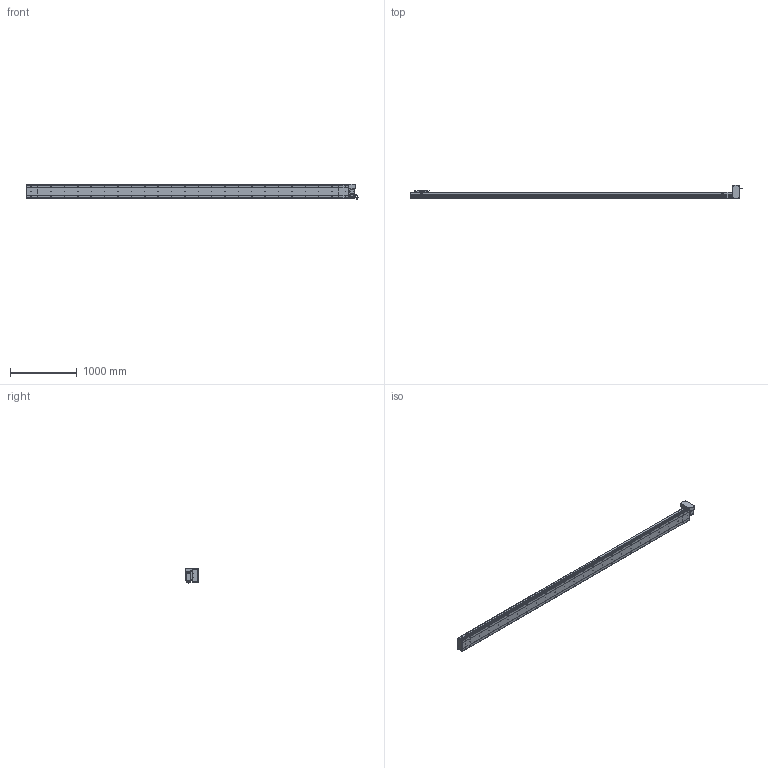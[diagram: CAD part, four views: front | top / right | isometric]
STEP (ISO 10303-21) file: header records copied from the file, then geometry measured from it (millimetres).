
FILE_DESCRIPTION (( 'STEP AP214' ), '1' );
FILE_NAME ('D20 CBH LT S4500.STEP', '2010-06-30T11:40:42', ( 'Conseil Régional Haute-Normandie' ), ( 'Conseil Régional Haute-Normandie' ), 'SwSTEP 2.0', 'SolidWorks 2010', '' );
FILE_SCHEMA (( 'AUTOMOTIVE_DESIGN' ));
Length unit declared in the file: millimetre
Products named in the file (31): Couvercle_Default; Corp Tail D20+100_Default; Conecteur_Default; Conecteur2_Default; codeur 90BLDC125-640; Cache Support Moteur LT_Default; Glissiere_Default; Chariot D20_Default; corps 90BLDC125A-640; Plaque de Bout Tail D20_Default; Tail D20+100_Default; Couvercle S4500_Default; Plaque De Serrage D20_Default; avant 90BLDC125A-640; Support Chariot D20_Default; Corp S4500_Default; Corp D20 S4500_Default; vis M5 L47_Default; vis M5 L30_Default; ecrou_Default; vis M5 L15_Default; Support moteur LT_Default; Rondelle Cache D20 LT_Default; Corp Tail D20 LT_Default; Head LT_Default; D20 CBH LT S4500; Plaque de Bout Head D20 LT_Default; Plaque De Serrage D20 LT_Default; Moteur motionking 90BLDC125A-640; Couvercle LT_Default
Assembly tree (66 placements, depth 4):
  D20 CBH LT S4500
    Chariot D20_Default
      vis M5 L15_Default  x8
      Support Chariot D20_Default
      Chariot D20_Default
      Glissiere_Default
    Head LT_Default
      vis M5 L15_Default  x12
      Plaque De Serrage D20 LT_Default
      vis M5 L30_Default  x4
      ecrou_Default  x4
      vis M5 L47_Default  x4
      Support moteur LT_Default
      Corp Tail D20 LT_Default
      Plaque de Bout Head D20 LT_Default
      Rondelle Cache D20 LT_Default  x3
      Moteur motionking 90BLDC125A-640
        Conecteur_Default
        Conecteur2_Default
        codeur 90BLDC125-640
        avant 90BLDC125A-640
        corps 90BLDC125A-640
      Cache Support Moteur LT_Default
      Couvercle LT_Default
    Tail D20+100_Default
      Plaque de Bout Tail D20_Default
      vis M5 L15_Default  x6
      Plaque De Serrage D20_Default
      Couvercle_Default
      Corp Tail D20+100_Default
    Corp D20 S4500_Default
      Couvercle S4500_Default
      Corp S4500_Default
Bounding box: 4963.45 x 202.5 x 229.7 mm (x, y, z)
Volume: 32640410.5 mm3; surface area: 6212128.9 mm2
Topology: 103 solids, 103 shells, 3903 faces, 9728 edges, 6328 vertices
Faces by surface type: plane 2140, bspline 806, cylinder 794, torus 91, cone 68, sphere 4
Entity records: 164158 total; most frequent: CARTESIAN_POINT 83803, ORIENTED_EDGE 15924, DIRECTION 12312, EDGE_CURVE 7962, VERTEX_POINT 5272, VECTOR 5042, LINE 5042, AXIS2_PLACEMENT_3D 3635
